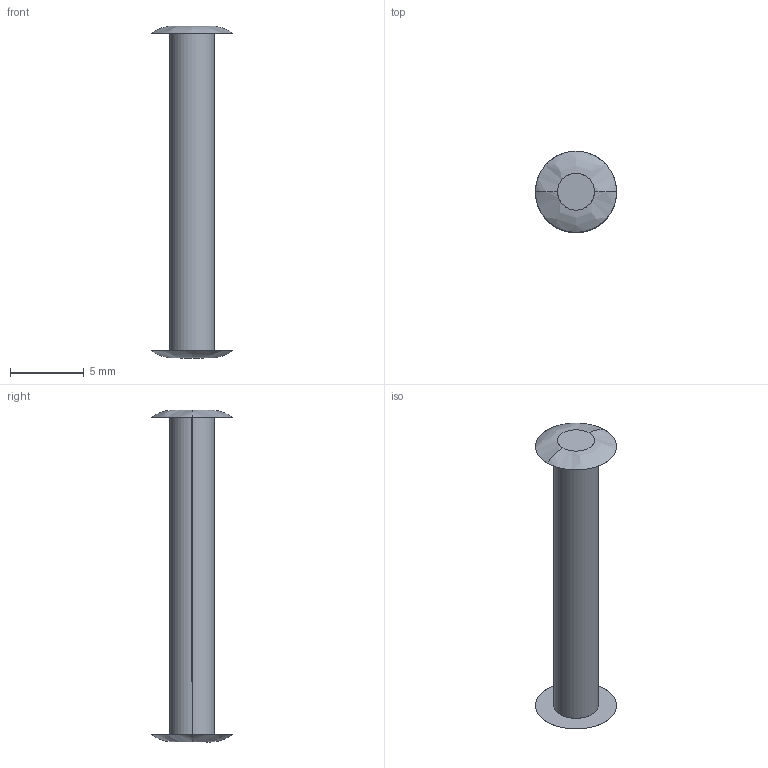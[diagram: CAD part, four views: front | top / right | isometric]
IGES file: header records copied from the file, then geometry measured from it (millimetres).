
Start section: SolidWorks IGES FILE using analytic representation for surfaces
Global section: file name: C:\Documents and Settings\brechard\Bureau\GE 61\61.300.03.IGS; native system: SolidWorks 2001Plus by SolidWorks Corporation; preprocessor: Version 5.3; author: brechard; date: 050126.103256; units: millimetre
Bounding box: 5.5 x 5.5 x 22.5 mm (x, y, z)
Surface area: 286.8 mm2 (no closed solid volume)
Topology: 0 solids, 0 shells, 10 faces, 216 edges, 216 vertices
Faces by surface type: bspline 8, revolution 2
